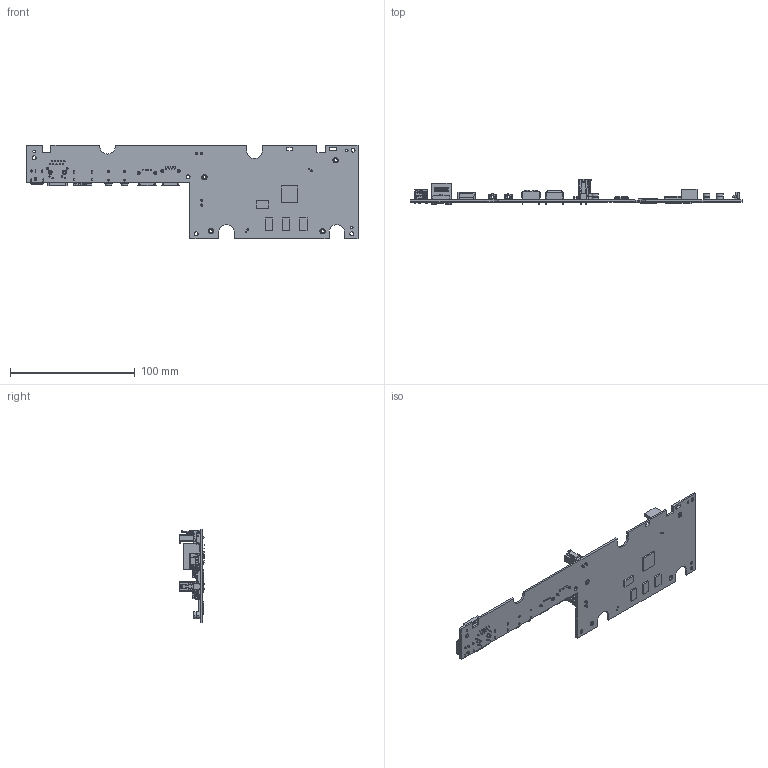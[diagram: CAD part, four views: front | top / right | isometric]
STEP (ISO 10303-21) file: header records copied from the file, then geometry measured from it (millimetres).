
FILE_DESCRIPTION((''),'2;1');
FILE_NAME('SWAN_PCB_ASSEMBLY_ASM','2020-12-04T',('g6007893'),(''),'PRO/ENGINEER BY PARAMETRIC TECHNOLOGY CORPORATION, 2013320','PRO/ENGINEER BY PARAMETRIC TECHNOLOGY CORPORATION, 2013320','');
FILE_SCHEMA(('AUTOMOTIVE_DESIGN { 1 0 10303 214 1 1 1 1 }'));
Products named in the file (45): SWAN_PCB; SHD-6012D01-BLTN-T1-CUSTOMER; JFM38011-0L69-4F; MSBR-21; MSBR-20; MSBR-19; MSBR-18; MSBR-17; MSBR-16; MSBR-15; MSBR-14; MSBR-13; MSBR-12; MSBR-11; MSBR-10; MSBR-9; MSBR-8; MSBR-7; MSBR-6; MSBR-5; MSBR-4; MSBR-3; MSBR-2; MSBR-1; QJ-WFB4-IM_0325_ASM; 2SJ2296-000111; MSBR-1-011; _UB1112C-4K1-4F_3D-01; UB1112C-4K1-4F_3D-01_ASM; UEA1112C-4HK1-4F_3D; 86514-02XX_REV-1; TBGA-14X14-153-H0_8; UBGA-35X35-463S0; FBGA-16X9-96CS0; STAND-NUT-411-00041-005; S-51282-002HXXX-XXX; ANT_CONNECTOR; FH41-15S-0_5SH; CABLE-POWER-SWITCH-01; 5022311500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
Assembly tree (58 placements, depth 3):
  SWAN_PCB_ASSEMBLY_ASM
    SWAN_PCB
    SHD-6012D01-BLTN-T1-CUSTOMER
    JFM38011-0L69-4F
    QJ-WFB4-IM_0325_ASM
      MSBR-21
      MSBR-20
      MSBR-19
      MSBR-18
      MSBR-17
      MSBR-16
      MSBR-15
      MSBR-14
      MSBR-13
      MSBR-12
      MSBR-11
      MSBR-10
      MSBR-9
      MSBR-8
      MSBR-7
      MSBR-6
      MSBR-5
      MSBR-4
      MSBR-3
      MSBR-2
      MSBR-1
    2SJ2296-000111  x2
    UB1112C-4K1-4F_3D-01_ASM
      MSBR-1-011
      _UB1112C-4K1-4F_3D-01
    UEA1112C-4HK1-4F_3D
    86514-02XX_REV-1  x2
    TBGA-14X14-153-H0_8
    UBGA-35X35-463S0
    FBGA-16X9-96CS0  x4
    STAND-NUT-411-00041-005  x4
    S-51282-002HXXX-XXX  x2
    ANT_CONNECTOR
    FH41-15S-0_5SH
    CABLE-POWER-SWITCH-01
    5022311500  x3
    CN-D5X1-2_54AHD
    THERMAL_PAD_SOC_02-K5
    THERMAL_PAD_SOC_03-K5  x4
    THERMAL-PAD-SOC-CUP-1-K5
Bounding box: 266.5 x 20.1 x 75 mm (x, y, z)
Volume: 32169.4 mm3; surface area: 48545.9 mm2
Topology: 54 solids, 75 shells, 8347 faces, 23903 edges, 15701 vertices
Faces by surface type: plane 6444, cylinder 1553, extrusion 117, cone 94, bspline 77, torus 34, sphere 28
Entity records: 209572 total; most frequent: CARTESIAN_POINT 39509, ORIENTED_EDGE 32798, DIRECTION 30168, EDGE_CURVE 16399, VECTOR 13184, LINE 13067, VERTEX_POINT 10746, AXIS2_PLACEMENT_3D 8492
